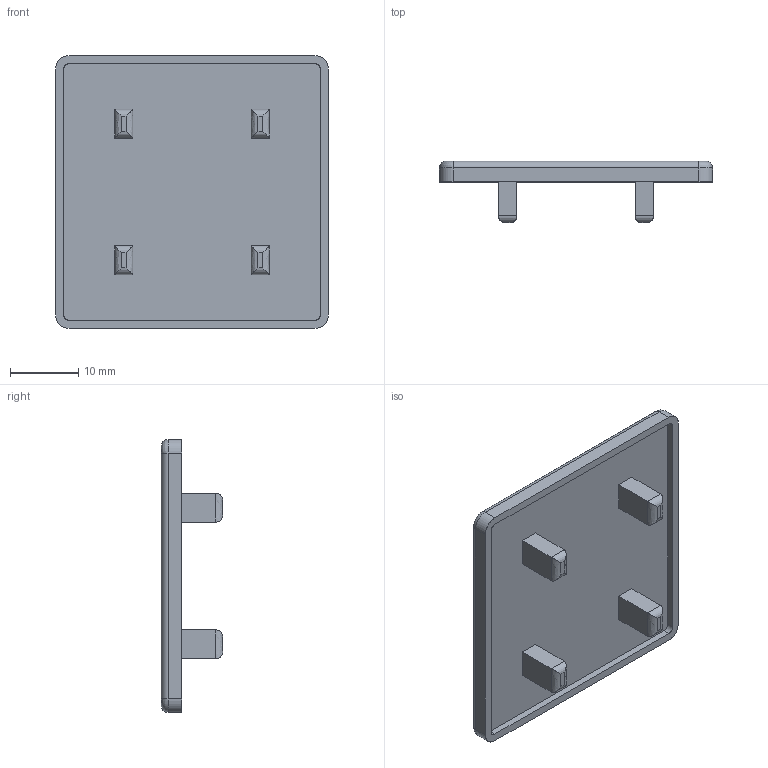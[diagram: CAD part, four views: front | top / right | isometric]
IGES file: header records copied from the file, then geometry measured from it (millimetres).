
Start section: SolidWorks IGES file using analytic representation for surfaces
Global section: file name: C:\Users\admin\Desktop\IGES\J2C44.igs; native system: SolidWorks 2014; preprocessor: SolidWorks 2014; author: admin_pc; date: 170524.165206; units: millimetre
Bounding box: 40 x 9 x 40 mm (x, y, z)
Surface area: 4104.7 mm2 (no closed solid volume)
Topology: 0 solids, 0 shells, 63 faces, 496 edges, 496 vertices
Faces by surface type: bspline 35, revolution 28
